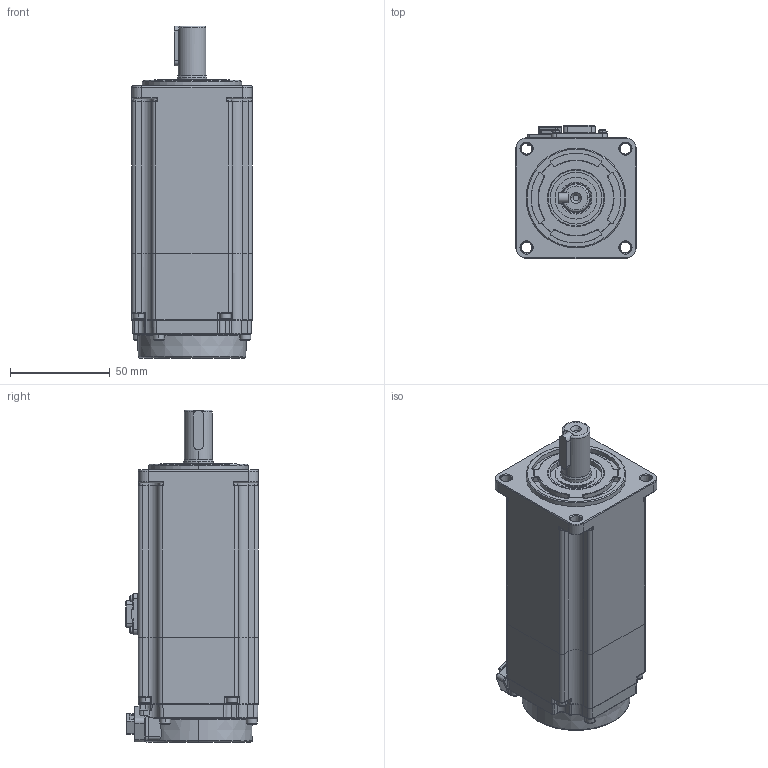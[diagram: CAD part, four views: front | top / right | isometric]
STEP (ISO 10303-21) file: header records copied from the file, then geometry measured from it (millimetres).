
FILE_DESCRIPTION (( 'STEP AP203' ), '1' );
FILE_NAME ('G3系列60ST-600W刹车电机三维图-三竹插拔头.STEP', '2023-09-27T05:29:02', ( '微软用户' ), ( '微软中国' ), 'SwSTEP 2.0', 'SolidWorks 2016', '' );
FILE_SCHEMA (( 'CONFIG_CONTROL_DESIGN' ));
Products named in the file (1): G3系列60ST-600W刹车电机三维图-三竹插拔头
Bounding box: 60.2 x 66.6 x 166.3 mm (x, y, z)
Surface area: 97585.6 mm2 (no closed solid volume)
Topology: 0 solids, 20 shells, 3532 faces, 9111 edges, 5796 vertices
Faces by surface type: plane 1988, cylinder 696, bspline 375, cone 350, torus 115, sphere 8
Entity records: 117442 total; most frequent: CARTESIAN_POINT 33348, ORIENTED_EDGE 18144, DIRECTION 16476, EDGE_CURVE 9086, VERTEX_POINT 5796, VECTOR 5744, LINE 5744, AXIS2_PLACEMENT_3D 5366
